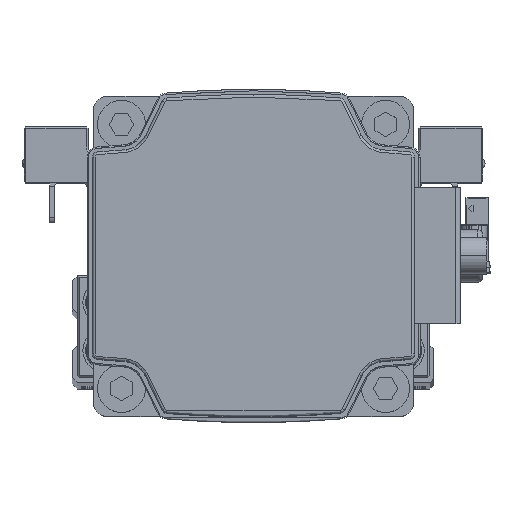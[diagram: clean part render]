
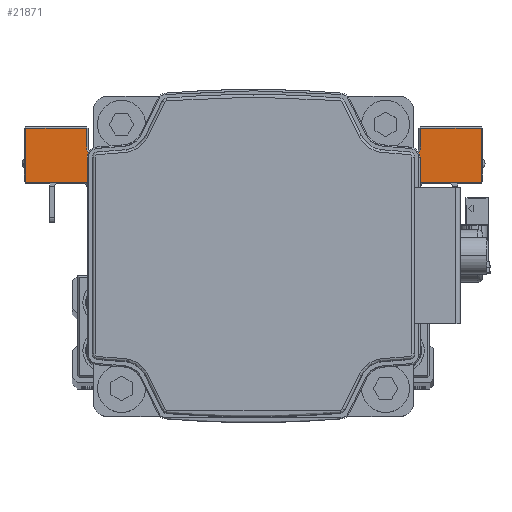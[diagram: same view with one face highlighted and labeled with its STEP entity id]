
A CAD part, top view. The second image highlights one B-rep face of the part: STEP entity #21871.
In plain terms, the highlighted planar face has unit normal (0, 0, 1) as drawn and (1, 0, 0) by its records, which use the part's own axes.
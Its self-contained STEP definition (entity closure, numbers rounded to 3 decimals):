
#135 = EDGE_CURVE ( 'NONE', #28232, #17359, #28703, .T. ) ;
#464 = VERTEX_POINT ( 'NONE', #21494 ) ;
#1294 = CARTESIAN_POINT ( 'NONE',  ( 25.5, 7.5, -42.7 ) ) ;
#1867 = PLANE ( 'NONE',  #20110 ) ;
#1944 = CARTESIAN_POINT ( 'NONE',  ( 25.5, 7.5, -17. ) ) ;
#2397 = LINE ( 'NONE', #15260, #27658 ) ;
#2416 = ORIENTED_EDGE ( 'NONE', *, *, #35568, .T. ) ;
#2418 = CARTESIAN_POINT ( 'NONE',  ( 25.5, 5.5, 17. ) ) ;
#2680 = DIRECTION ( 'NONE',  ( 0., 0., 1. ) ) ;
#3106 = CARTESIAN_POINT ( 'NONE',  ( 25.5, 5.5, -15. ) ) ;
#3210 = CARTESIAN_POINT ( 'NONE',  ( 25.5, 12.7, 30. ) ) ;
#5932 = CARTESIAN_POINT ( 'NONE',  ( 25.5, 7.5, 15. ) ) ;
#6253 = ORIENTED_EDGE ( 'NONE', *, *, #15476, .T. ) ;
#6565 = LINE ( 'NONE', #19420, #36499 ) ;
#7134 = CIRCLE ( 'NONE', #30707, 2. ) ;
#7502 = EDGE_CURVE ( 'NONE', #39283, #21318, #32109, .T. ) ;
#7578 = ORIENTED_EDGE ( 'NONE', *, *, #135, .T. ) ;
#7714 = VERTEX_POINT ( 'NONE', #1294 ) ;
#8355 = CARTESIAN_POINT ( 'NONE',  ( 25.5, 17.7, -15. ) ) ;
#8424 = VERTEX_POINT ( 'NONE', #3106 ) ;
#8635 = LINE ( 'NONE', #21488, #39945 ) ;
#8679 = CARTESIAN_POINT ( 'NONE',  ( 25.5, 7.5, -42.7 ) ) ;
#8680 = LINE ( 'NONE', #21531, #12767 ) ;
#8685 = EDGE_CURVE ( 'NONE', #464, #28388, #37231, .T. ) ;
#9721 = DIRECTION ( 'NONE',  ( 0., -1., 0. ) ) ;
#9749 = EDGE_CURVE ( 'NONE', #24745, #21472, #26104, .T. ) ;
#9826 = AXIS2_PLACEMENT_3D ( 'NONE', #18691, #31583, #2680 ) ;
#10073 = ORIENTED_EDGE ( 'NONE', *, *, #9749, .T. ) ;
#10076 = DIRECTION ( 'NONE',  ( 0., 0., -1. ) ) ;
#10601 = CARTESIAN_POINT ( 'NONE',  ( 25.5, 7.5, 17. ) ) ;
#11784 = AXIS2_PLACEMENT_3D ( 'NONE', #15023, #27877, #40730 ) ;
#11987 = CARTESIAN_POINT ( 'NONE',  ( 25.5, 7.5, -15. ) ) ;
#12688 = DIRECTION ( 'NONE',  ( 0., 0., -1. ) ) ;
#12767 = VECTOR ( 'NONE', #34418, 1000. ) ;
#12794 = AXIS2_PLACEMENT_3D ( 'NONE', #14952, #27809, #40660 ) ;
#12986 = ORIENTED_EDGE ( 'NONE', *, *, #14637, .T. ) ;
#14200 = EDGE_CURVE ( 'NONE', #27320, #28773, #8680, .T. ) ;
#14386 = EDGE_CURVE ( 'NONE', #28773, #24745, #25748, .T. ) ;
#14637 = EDGE_CURVE ( 'NONE', #8424, #34612, #30980, .T. ) ;
#14723 = CARTESIAN_POINT ( 'NONE',  ( 25.5, 7.5, -15. ) ) ;
#14952 = CARTESIAN_POINT ( 'NONE',  ( 25.5, 5.5, -17. ) ) ;
#15002 = ORIENTED_EDGE ( 'NONE', *, *, #14200, .T. ) ;
#15023 = CARTESIAN_POINT ( 'NONE',  ( 25.5, 14., 30. ) ) ;
#15195 = VECTOR ( 'NONE', #10076, 1000. ) ;
#15260 = CARTESIAN_POINT ( 'NONE',  ( 25.5, 7.5, 31.3 ) ) ;
#15285 = DIRECTION ( 'NONE',  ( -1., 0., 0. ) ) ;
#15467 = CARTESIAN_POINT ( 'NONE',  ( 25.5, 12.7, 30. ) ) ;
#15476 = EDGE_CURVE ( 'NONE', #35254, #27320, #2397, .T. ) ;
#15988 = EDGE_LOOP ( 'NONE', ( #20097, #41212, #28173, #28759, #2416, #28626, #22889, #6253, #15002, #17389, #10073, #18814, #24184, #7578, #19483, #12986 ) ) ;
#16066 = DIRECTION ( 'NONE',  ( 0., 0., 1. ) ) ;
#17202 = EDGE_CURVE ( 'NONE', #29806, #28232, #34846, .T. ) ;
#17359 = VERTEX_POINT ( 'NONE', #19832 ) ;
#17389 = ORIENTED_EDGE ( 'NONE', *, *, #14386, .T. ) ;
#18691 = CARTESIAN_POINT ( 'NONE',  ( 25.5, 14., -30. ) ) ;
#18789 = DIRECTION ( 'NONE',  ( 0., -1., 0. ) ) ;
#18814 = ORIENTED_EDGE ( 'NONE', *, *, #37298, .T. ) ;
#19420 = CARTESIAN_POINT ( 'NONE',  ( 25.5, 7.5, -31.3 ) ) ;
#19483 = ORIENTED_EDGE ( 'NONE', *, *, #21920, .F. ) ;
#19667 = CARTESIAN_POINT ( 'NONE',  ( 25.5, -7.5, 15. ) ) ;
#19832 = CARTESIAN_POINT ( 'NONE',  ( 25.5, -7.5, -15. ) ) ;
#20097 = ORIENTED_EDGE ( 'NONE', *, *, #33912, .T. ) ;
#20110 = AXIS2_PLACEMENT_3D ( 'NONE', #14723, #27583, #40432 ) ;
#21204 = DIRECTION ( 'NONE',  ( 0., 0., 1. ) ) ;
#21318 = VERTEX_POINT ( 'NONE', #15467 ) ;
#21366 = VECTOR ( 'NONE', #21530, 1000. ) ;
#21472 = VERTEX_POINT ( 'NONE', #10601 ) ;
#21488 = CARTESIAN_POINT ( 'NONE',  ( 25.5, 7.5, 43. ) ) ;
#21494 = CARTESIAN_POINT ( 'NONE',  ( 25.5, 17.7, -42.7 ) ) ;
#21530 = DIRECTION ( 'NONE',  ( 0., 1., 0. ) ) ;
#21531 = CARTESIAN_POINT ( 'NONE',  ( 25.5, 17.7, -15. ) ) ;
#21639 = VECTOR ( 'NONE', #18789, 1000. ) ;
#21751 = VECTOR ( 'NONE', #12688, 1000. ) ;
#21871 = ADVANCED_FACE ( 'NONE', ( #30756 ), #1867, .F. ) ;
#21920 = EDGE_CURVE ( 'NONE', #8424, #17359, #40847, .T. ) ;
#22889 = ORIENTED_EDGE ( 'NONE', *, *, #34638, .T. ) ;
#24184 = ORIENTED_EDGE ( 'NONE', *, *, #17202, .T. ) ;
#24569 = CIRCLE ( 'NONE', #11784, 1.3 ) ;
#24745 = VERTEX_POINT ( 'NONE', #36263 ) ;
#24840 = DIRECTION ( 'NONE',  ( 0., -1., 0. ) ) ;
#25748 = LINE ( 'NONE', #38597, #35674 ) ;
#26104 = LINE ( 'NONE', #38949, #15195 ) ;
#27320 = VERTEX_POINT ( 'NONE', #35240 ) ;
#27583 = DIRECTION ( 'NONE',  ( -1., 0., 0. ) ) ;
#27658 = VECTOR ( 'NONE', #28126, 1000. ) ;
#27683 = CARTESIAN_POINT ( 'NONE',  ( 25.5, 14., -31.3 ) ) ;
#27809 = DIRECTION ( 'NONE',  ( -1., 0., 0. ) ) ;
#27877 = DIRECTION ( 'NONE',  ( -1., 0., 0. ) ) ;
#27986 = CIRCLE ( 'NONE', #9826, 1.3 ) ;
#28126 = DIRECTION ( 'NONE',  ( 0., 1., 0. ) ) ;
#28148 = DIRECTION ( 'NONE',  ( 0., 0., 1. ) ) ;
#28173 = ORIENTED_EDGE ( 'NONE', *, *, #8685, .T. ) ;
#28232 = VERTEX_POINT ( 'NONE', #19667 ) ;
#28388 = VERTEX_POINT ( 'NONE', #30421 ) ;
#28626 = ORIENTED_EDGE ( 'NONE', *, *, #7502, .T. ) ;
#28703 = LINE ( 'NONE', #41562, #21751 ) ;
#28759 = ORIENTED_EDGE ( 'NONE', *, *, #30996, .T. ) ;
#28773 = VERTEX_POINT ( 'NONE', #39223 ) ;
#28877 = VECTOR ( 'NONE', #24840, 1000. ) ;
#28916 = VECTOR ( 'NONE', #16066, 1000. ) ;
#29806 = VERTEX_POINT ( 'NONE', #32507 ) ;
#30421 = CARTESIAN_POINT ( 'NONE',  ( 25.5, 17.7, -31.3 ) ) ;
#30504 = CARTESIAN_POINT ( 'NONE',  ( 25.5, 12.7, -30. ) ) ;
#30707 = AXIS2_PLACEMENT_3D ( 'NONE', #2418, #15285, #28148 ) ;
#30756 = FACE_OUTER_BOUND ( 'NONE', #15988, .T. ) ;
#30980 = CIRCLE ( 'NONE', #12794, 2. ) ;
#30996 = EDGE_CURVE ( 'NONE', #28388, #37667, #6565, .T. ) ;
#31583 = DIRECTION ( 'NONE',  ( -1., 0., 0. ) ) ;
#31983 = VECTOR ( 'NONE', #21204, 1000. ) ;
#32109 = LINE ( 'NONE', #3210, #28916 ) ;
#32302 = DIRECTION ( 'NONE',  ( 0., -1., 0. ) ) ;
#32507 = CARTESIAN_POINT ( 'NONE',  ( 25.5, 5.5, 15. ) ) ;
#33912 = EDGE_CURVE ( 'NONE', #34612, #7714, #8635, .T. ) ;
#34373 = DIRECTION ( 'NONE',  ( 0., 0., -1. ) ) ;
#34418 = DIRECTION ( 'NONE',  ( 0., 0., 1. ) ) ;
#34612 = VERTEX_POINT ( 'NONE', #1944 ) ;
#34638 = EDGE_CURVE ( 'NONE', #21318, #35254, #24569, .T. ) ;
#34846 = LINE ( 'NONE', #5932, #21639 ) ;
#35240 = CARTESIAN_POINT ( 'NONE',  ( 25.5, 17.7, 31.3 ) ) ;
#35254 = VERTEX_POINT ( 'NONE', #38560 ) ;
#35568 = EDGE_CURVE ( 'NONE', #37667, #39283, #27986, .T. ) ;
#35674 = VECTOR ( 'NONE', #9721, 1000. ) ;
#36263 = CARTESIAN_POINT ( 'NONE',  ( 25.5, 7.5, 42.7 ) ) ;
#36499 = VECTOR ( 'NONE', #32302, 1000. ) ;
#37231 = LINE ( 'NONE', #8355, #31983 ) ;
#37298 = EDGE_CURVE ( 'NONE', #21472, #29806, #7134, .T. ) ;
#37555 = LINE ( 'NONE', #8679, #21366 ) ;
#37667 = VERTEX_POINT ( 'NONE', #27683 ) ;
#38560 = CARTESIAN_POINT ( 'NONE',  ( 25.5, 14., 31.3 ) ) ;
#38597 = CARTESIAN_POINT ( 'NONE',  ( 25.5, 7.5, 42.7 ) ) ;
#38949 = CARTESIAN_POINT ( 'NONE',  ( 25.5, 7.5, 43. ) ) ;
#39223 = CARTESIAN_POINT ( 'NONE',  ( 25.5, 17.7, 42.7 ) ) ;
#39283 = VERTEX_POINT ( 'NONE', #30504 ) ;
#39945 = VECTOR ( 'NONE', #34373, 1000. ) ;
#40432 = DIRECTION ( 'NONE',  ( 0., 0., 1. ) ) ;
#40660 = DIRECTION ( 'NONE',  ( 0., 0., 1. ) ) ;
#40730 = DIRECTION ( 'NONE',  ( 0., 0., 1. ) ) ;
#40847 = LINE ( 'NONE', #11987, #28877 ) ;
#41212 = ORIENTED_EDGE ( 'NONE', *, *, #41547, .T. ) ;
#41547 = EDGE_CURVE ( 'NONE', #7714, #464, #37555, .T. ) ;
#41562 = CARTESIAN_POINT ( 'NONE',  ( 25.5, -7.5, -15. ) ) ;
